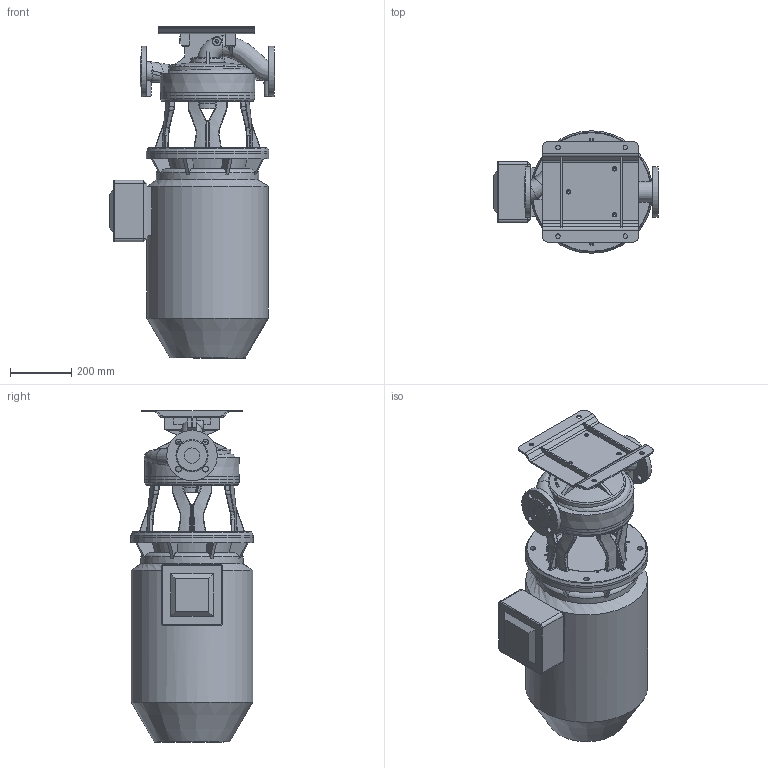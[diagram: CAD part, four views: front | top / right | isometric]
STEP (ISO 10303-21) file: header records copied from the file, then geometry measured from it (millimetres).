
FILE_DESCRIPTION (( 'STEP AP203' ), '1' );
FILE_NAME ('KI50-220_2_30kW.STEP', '2024-07-30T06:56:49', ( '' ), ( '' ), 'SwSTEP 2.0', 'SolidWorks 2023', '' );
FILE_SCHEMA (( 'CONFIG_CONTROL_DESIGN' ));
Length unit declared in the file: millimetre
Products named in the file (11): 220531; 230572; 230531; 230569; 440130_solid; 220533; 230170; 230530; 230033; KI50-220_2_30kW; 230171
Assembly tree (11 placements, depth 3):
  KI50-220_2_30kW
    440130_solid
    230531
      230530
    230569
      230572
    220533
      220531
    230171
      230170
      230033  x2
Bounding box: 542 x 400 x 1084.45 mm (x, y, z)
Volume: 92533459.1 mm3; surface area: 2531571.3 mm2
Topology: 7 solids, 7 shells, 1011 faces, 2589 edges, 1587 vertices
Faces by surface type: plane 337, bspline 335, cylinder 192, cone 84, torus 61, sphere 2
Full cylindrical faces by diameter (mm): 6 x2, 6.8 x8, 10 x4, 10.2 x11, 11.445 x1, 11.8 x3, 14 x16, 14.5 x7, 18.5 x4, 19 x12, 50 x2, 225 x1, 243 x1, 255 x2, 256 x1, 300 x1, 308 x2, 335 x1, 398 x1, 400 x2
Entity records: 87215 total; most frequent: CARTESIAN_POINT 65507, ORIENTED_EDGE 4720, DIRECTION 3350, EDGE_CURVE 2360, VERTEX_POINT 1523, AXIS2_PLACEMENT_3D 1339, EDGE_LOOP 1271, FACE_OUTER_BOUND 1092
